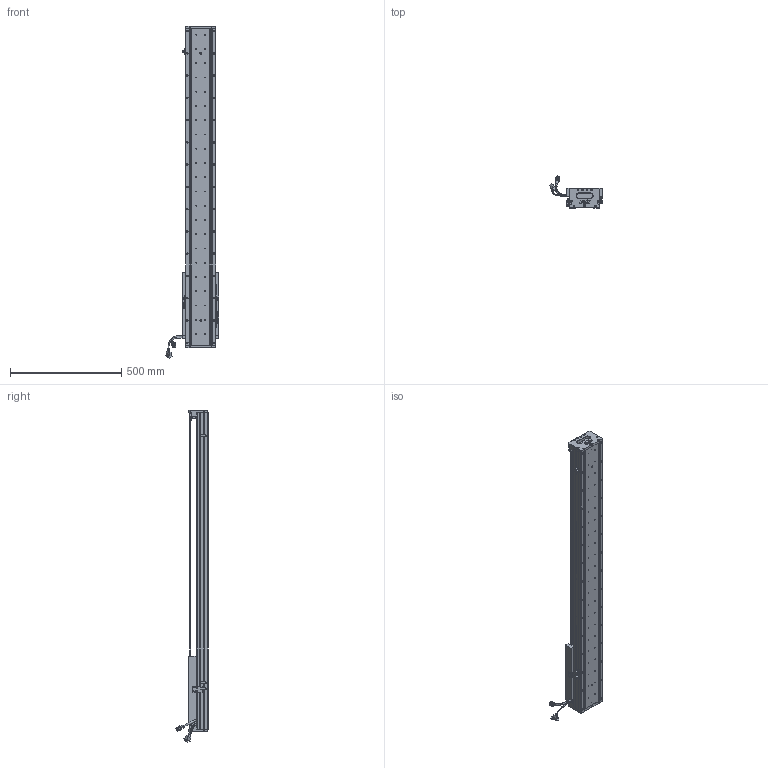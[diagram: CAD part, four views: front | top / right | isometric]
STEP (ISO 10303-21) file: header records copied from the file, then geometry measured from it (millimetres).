
FILE_DESCRIPTION (( 'STEP AP203' ), '1' );
FILE_NAME ('Z4-RY140D-1-L500-B-K.SLDASM_1050.step', '2021-05-17T08:15:41', ( '盈信电脑' ), ( '东莞市道滘镇水果街19号' ), 'SwSTEP 2.0', 'SolidWorks 2016', '' );
FILE_SCHEMA (( 'CONFIG_CONTROL_DESIGN' ));
Length unit declared in the file: millimetre
Products named in the file (36): Z4-RY140D-1-L500-B-K.SLDASM_1050; Z-RY140感应器672光电感应片; SCREW-M1.6; 榋妏寠巭燃_暯_M2_2; COVER; SCALE-Part-1; SCREW-M1.7; Z-140詩湍傷裔啣; LABEL; SCALE-Part-2; SHIELDPLATE; SCREW-M1.6-3; LABEL-Part-1; HOLDER0; PBU_SHEET; SCREW-M1.7-1; 詩湍狟揤裔; 覜茼ん672; SCREW-M1.6-1; 140雄赽晤鎢ん堤盄; Z4-RY140圉猾敕臏賑輸(21遴); SEAL-Part-1; Z4-RY140-L500詩湍100mm遵_1050; 詩湍奻揤裔; HARNESS; HARNESS-Part-2; PSLH080_PSLF2; 140蚥薯蝶輸; SCALE; COVER-Part-1; HARNESS-Part-1; Z4-RY140-L500直线电机模组底座_1050; 140-Z-臏賑輸盄裔(21遴); 080黍杅芛假蚾釱21遴; SCREW-M1.6-2; SEAL
Assembly tree (41 placements, depth 4):
  Z4-RY140D-1-L500-B-K.SLDASM_1050
    Z4-RY140-L500直线电机模组底座_1050
    Z-RY140感应器672光电感应片
    Z4-RY140圉猾敕臏賑輸(21遴)
    覜茼ん672  x3
    Z4-RY140-L500詩湍100mm遵_1050
    PSLH080_PSLF2
      SCALE
        SCALE-Part-1
        SCALE-Part-2
      HARNESS
        HARNESS-Part-1
        HARNESS-Part-2
      LABEL
        LABEL-Part-1
      COVER
        COVER-Part-1
      SEAL
        SEAL-Part-1
      榋妏寠巭燃_暯_M2_2
      SHIELDPLATE
      SCREW-M1.7
      SCREW-M1.7-1
      PBU_SHEET
      SCREW-M1.6
      SCREW-M1.6-1
      SCREW-M1.6-2
      SCREW-M1.6-3
      HOLDER0
    080黍杅芛假蚾釱21遴
    140-Z-臏賑輸盄裔(21遴)
    Z-140詩湍傷裔啣  x2
    詩湍狟揤裔  x2
    詩湍奻揤裔  x2
    140蚥薯蝶輸  x2
    140雄赽晤鎢ん堤盄
Bounding box: 239.84 x 143.88 x 1490.87 mm (x, y, z)
Volume: 5413521.6 mm3; surface area: 1382844.4 mm2
Topology: 36 solids, 36 shells, 3324 faces, 8870 edges, 5619 vertices
Faces by surface type: cylinder 1660, plane 1216, cone 326, torus 69, bspline 53
Entity records: 100598 total; most frequent: CARTESIAN_POINT 26661, ORIENTED_EDGE 14812, DIRECTION 14266, EDGE_CURVE 7406, AXIS2_PLACEMENT_3D 5272, VERTEX_POINT 4787, LINE 3722, VECTOR 3722
